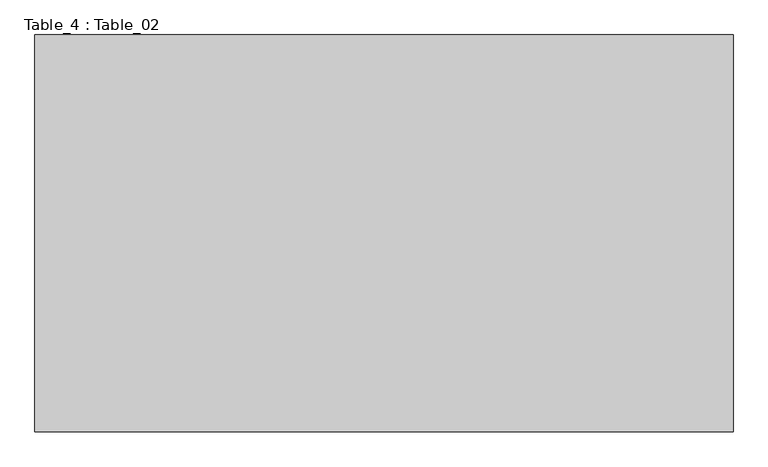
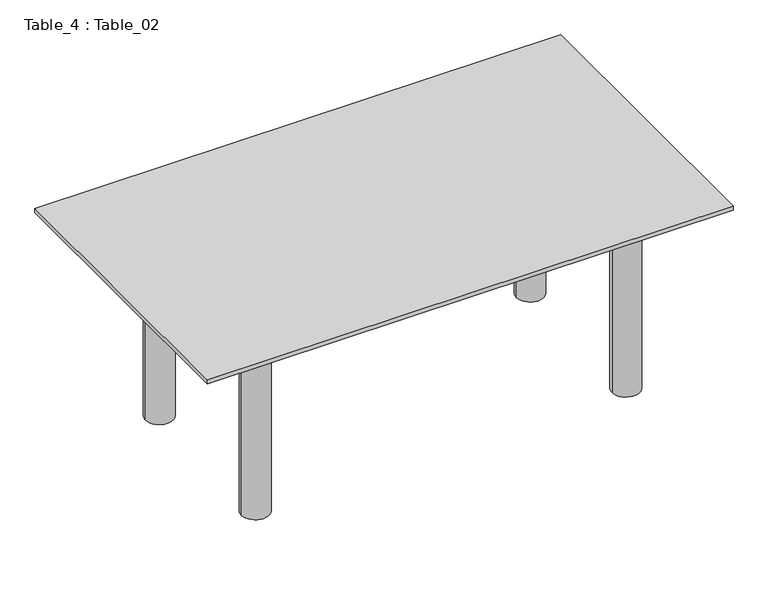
"""IFC4 building model written with IfcOpenShell, lengths in millimetres: furniture geometry, Table_4 : Table_02."""

from ifc_helpers import new_model, si_unit, frame, origin, place, context, project, spatial, circle_curve, source, transform, mapped, element, save
from ifc_brep_helpers import plane_surface, cylinder_surface, advanced_brep


def table_4_table_02_2cdb1567(model_context):
    return source(origin(), model_context, "Body", "AdvancedBrep", [
        advanced_brep(
        [(-3921.7345923, 3811.5852766, 10196.4599674), (-5821.7345923, 3811.5852766, 10196.4599674), (-5821.7345923, 2731.5852766, 10196.4599674), (-3921.7345923, 2731.5852766, 10196.4599674), (-3921.7345923, 3811.5852766, 10182.0286281), (-3921.7345923, 2731.5852766, 10182.0286281), (-5821.7345923, 2731.5852766, 10182.0286281), (-5821.7345923, 3811.5852766, 10182.0286281), (-5558.6856428, 3575.0609217, 10182.0286281), (-5458.6856428, 3575.0609217, 10182.0286281), (-5558.6856428, 2975.0609217, 10182.0286281), (-5458.6856428, 2975.0609217, 10182.0286281), (-4218.6856428, 3575.0609217, 10182.0286281), (-4118.6856428, 3575.0609217, 10182.0286281), (-4218.6856428, 2975.0609217, 10182.0286281), (-4118.6856428, 2975.0609217, 10182.0286281), (-5558.6856428, 3575.0609217, 9439.7959162), (-5458.6856428, 3575.0609217, 9439.7959162), (-5558.6856428, 2975.0609217, 9439.7959162), (-5458.6856428, 2975.0609217, 9439.7959162), (-4218.6856428, 3575.0609217, 9439.7959162), (-4118.6856428, 3575.0609217, 9439.7959162), (-4218.6856428, 2975.0609217, 9439.7959162), (-4118.6856428, 2975.0609217, 9439.7959162)],
        [
            (0, 1),
            (1, 2),
            (2, 3),
            (3, 0),
            (4, 5),
            (5, 6),
            (6, 7),
            (7, 4),
            (8, 9, circle_curve(frame((-5508.6856428, 3575.0609217, 10182.0286281), z_axis=(0.0, 0.0, 1.0), x_axis=(1.0, 0.0, 0.0)), 50.0)),
            (9, 8, circle_curve(frame((-5508.6856428, 3575.0609217, 10182.0286281), z_axis=(0.0, 0.0, 1.0), x_axis=(1.0, 0.0, 0.0)), 50.0)),
            (10, 11, circle_curve(frame((-5508.6856428, 2975.0609217, 10182.0286281), z_axis=(0.0, 0.0, 1.0), x_axis=(1.0, 0.0, 0.0)), 50.0)),
            (11, 10, circle_curve(frame((-5508.6856428, 2975.0609217, 10182.0286281), z_axis=(0.0, 0.0, 1.0), x_axis=(1.0, 0.0, 0.0)), 50.0)),
            (12, 13, circle_curve(frame((-4168.6856428, 3575.0609217, 10182.0286281), z_axis=(0.0, 0.0, 1.0), x_axis=(1.0, 0.0, 0.0)), 50.0)),
            (13, 12, circle_curve(frame((-4168.6856428, 3575.0609217, 10182.0286281), z_axis=(0.0, 0.0, 1.0), x_axis=(1.0, 0.0, 0.0)), 50.0)),
            (14, 15, circle_curve(frame((-4168.6856428, 2975.0609217, 10182.0286281), z_axis=(0.0, 0.0, 1.0), x_axis=(1.0, 0.0, 0.0)), 50.0)),
            (15, 14, circle_curve(frame((-4168.6856428, 2975.0609217, 10182.0286281), z_axis=(0.0, 0.0, 1.0), x_axis=(1.0, 0.0, 0.0)), 50.0)),
            (0, 4),
            (7, 1),
            (6, 2),
            (5, 3),
            (16, 17, circle_curve(frame((-5508.6856428, 3575.0609217, 9439.7959162), z_axis=(0.0, 0.0, -1.0), x_axis=(1.0, 0.0, 0.0)), 50.0)),
            (17, 16, circle_curve(frame((-5508.6856428, 3575.0609217, 9439.7959162), z_axis=(0.0, 0.0, -1.0), x_axis=(1.0, 0.0, 0.0)), 50.0)),
            (18, 19, circle_curve(frame((-5508.6856428, 2975.0609217, 9439.7959162), z_axis=(0.0, 0.0, -1.0), x_axis=(1.0, 0.0, 0.0)), 50.0)),
            (19, 18, circle_curve(frame((-5508.6856428, 2975.0609217, 9439.7959162), z_axis=(0.0, 0.0, -1.0), x_axis=(1.0, 0.0, 0.0)), 50.0)),
            (20, 21, circle_curve(frame((-4168.6856428, 3575.0609217, 9439.7959162), z_axis=(0.0, 0.0, -1.0), x_axis=(1.0, 0.0, 0.0)), 50.0)),
            (21, 20, circle_curve(frame((-4168.6856428, 3575.0609217, 9439.7959162), z_axis=(0.0, 0.0, -1.0), x_axis=(1.0, 0.0, 0.0)), 50.0)),
            (22, 23, circle_curve(frame((-4168.6856428, 2975.0609217, 9439.7959162), z_axis=(0.0, 0.0, -1.0), x_axis=(1.0, 0.0, 0.0)), 50.0)),
            (23, 22, circle_curve(frame((-4168.6856428, 2975.0609217, 9439.7959162), z_axis=(0.0, 0.0, -1.0), x_axis=(1.0, 0.0, 0.0)), 50.0)),
            (17, 9),
            (8, 16),
            (19, 11),
            (10, 18),
            (21, 13),
            (12, 20),
            (23, 15),
            (14, 22),
        ],
        [
            plane_surface(frame((-5821.7345923, 3811.5852766, 10196.4599674), z_axis=(0.0, 0.0, 1.0), x_axis=(-1.0, 0.0, 0.0))),
            plane_surface(frame((-5821.7345923, 3811.5852766, 10182.0286281), z_axis=(0.0, 0.0, -1.0), x_axis=(1.0, 0.0, 0.0))),
            plane_surface(frame((-3921.7345923, 3811.5852766, 10196.4599674), z_axis=(0.0, 1.0, 0.0), x_axis=(0.0, 0.0, -1.0))),
            plane_surface(frame((-5821.7345923, 3811.5852766, 10196.4599674), z_axis=(-1.0, 0.0, 0.0), x_axis=(0.0, 0.0, -1.0))),
            plane_surface(frame((-5821.7345923, 2731.5852766, 10196.4599674), z_axis=(0.0, -1.0, 0.0), x_axis=(0.0, 0.0, -1.0))),
            plane_surface(frame((-3921.7345923, 2731.5852766, 10196.4599674), z_axis=(1.0, 0.0, 0.0), x_axis=(0.0, 0.0, -1.0))),
            plane_surface(frame((-5458.6856428, 3575.0609217, 9439.7959162), z_axis=(0.0, 0.0, -1.0), x_axis=(0.0, -1.0, 0.0))),
            cylinder_surface(frame((-5508.6856428, 3575.0609217, 9439.7959162), z_axis=(0.0, 0.0, 1.0), x_axis=(1.0, 0.0, 0.0)), 50.0),
            cylinder_surface(frame((-5508.6856428, 2975.0609217, 8080.0), z_axis=(0.0, 0.0, 1.0), x_axis=(1.0, 0.0, 0.0)), 50.0),
            cylinder_surface(frame((-4168.6856428, 3575.0609217, 8080.0), z_axis=(0.0, 0.0, 1.0), x_axis=(1.0, 0.0, 0.0)), 50.0),
            cylinder_surface(frame((-4168.6856428, 2975.0609217, 8080.0), z_axis=(0.0, 0.0, 1.0), x_axis=(1.0, 0.0, 0.0)), 50.0),
        ],
        [
            (0, [[1, 2, 3, 4]]),
            (1, [[5, 6, 7, 8], [9, 10], [11, 12], [13, 14], [15, 16]]),
            (2, [[-1, 17, -8, 18]]),
            (3, [[-2, -18, -7, 19]]),
            (4, [[-3, -19, -6, 20]]),
            (5, [[-4, -20, -5, -17]]),
            (6, [[21, 22]]),
            (6, [[23, 24]]),
            (6, [[25, 26]]),
            (6, [[27, 28]]),
            (7, [[-22, 29, -9, 30]]),
            (7, [[-21, -30, -10, -29]]),
            (8, [[-24, 31, -11, 32]]),
            (8, [[-23, -32, -12, -31]]),
            (9, [[-26, 33, -13, 34]]),
            (9, [[-25, -34, -14, -33]]),
            (10, [[-28, 35, -15, 36]]),
            (10, [[-27, -36, -16, -35]]),
        ],
    ),
    ])


if __name__ == "__main__":
    model = new_model("IFC4")
    model_context = context("Model", 3, world=origin())
    ifc_project = project(units=[si_unit("LENGTHUNIT", "METRE", prefix="MILLI")], contexts=[model_context])
    site = spatial("IfcSite", under=ifc_project)
    building = spatial("IfcBuilding", under=site)
    placement = place(None, origin())
    table_4_table_02_shape = table_4_table_02_2cdb1567(model_context)
    element("IfcFurniture", 1, ObjectType="Table_4 : Table_02", at=placement, inside=building, context=model_context, shape_type="MappedRepresentation", body=[
        mapped(table_4_table_02_shape, transform((0.0, 0.0, 0.0), x_axis=(1.0, 0.0, 0.0), y_axis=(0.0, 1.0, 0.0), z_axis=(0.0, 0.0, 1.0))),
    ])
    save(model, "model.ifc")
